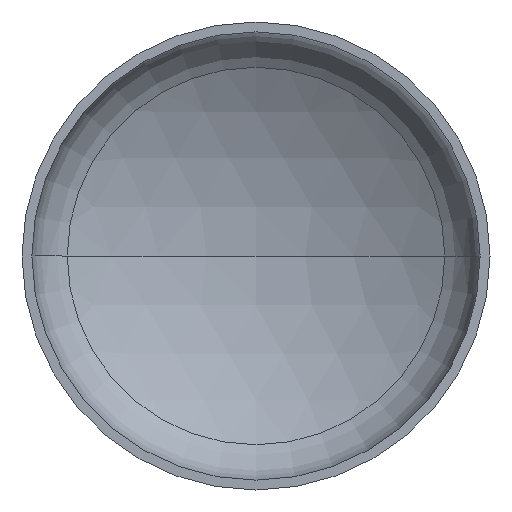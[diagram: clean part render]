
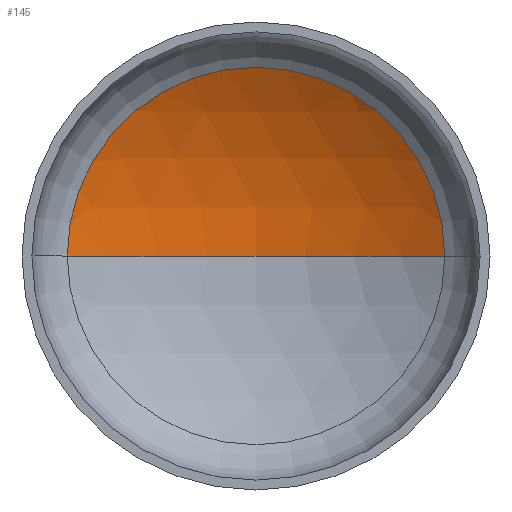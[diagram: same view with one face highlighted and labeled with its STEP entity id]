
A CAD part, front view. The second image highlights one B-rep face of the part: STEP entity #145.
In plain terms, the highlighted spherical face has radius 1520 mm.
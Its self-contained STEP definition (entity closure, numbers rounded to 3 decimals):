
#5 = SPHERICAL_SURFACE ( 'NONE', #26, 1520. ) ;
#9 = CIRCLE ( 'NONE', #32, 1520. ) ;
#26 = AXIS2_PLACEMENT_3D ( 'NONE', #290, #217, #50 ) ;
#31 = AXIS2_PLACEMENT_3D ( 'NONE', #178, #237, #236 ) ;
#32 = AXIS2_PLACEMENT_3D ( 'NONE', #287, #294, #293 ) ;
#34 = AXIS2_PLACEMENT_3D ( 'NONE', #304, #301, #300 ) ;
#41 = CIRCLE ( 'NONE', #34, 766.179 ) ;
#42 = VERTEX_POINT ( 'NONE', #256 ) ;
#50 = DIRECTION ( 'NONE',  ( -1., 0., 0. ) ) ;
#68 = ORIENTED_EDGE ( 'NONE', *, *, #102, .T. ) ;
#69 = CARTESIAN_POINT ( 'NONE',  ( 766.179, 370.463, 0. ) ) ;
#90 = EDGE_LOOP ( 'NONE', ( #134, #121, #68 ) ) ;
#102 = EDGE_CURVE ( 'NONE', #321, #136, #41, .T. ) ;
#103 = EDGE_CURVE ( 'NONE', #42, #321, #9, .T. ) ;
#107 = EDGE_CURVE ( 'NONE', #42, #136, #363, .T. ) ;
#121 = ORIENTED_EDGE ( 'NONE', *, *, #103, .T. ) ;
#134 = ORIENTED_EDGE ( 'NONE', *, *, #107, .F. ) ;
#136 = VERTEX_POINT ( 'NONE', #270 ) ;
#145 = ADVANCED_FACE ( 'NONE', ( #214 ), #5, .F. ) ;
#178 = CARTESIAN_POINT ( 'NONE',  ( 0., -942.309, 0. ) ) ;
#214 = FACE_OUTER_BOUND ( 'NONE', #90, .T. ) ;
#217 = DIRECTION ( 'NONE',  ( 0., 0., -1. ) ) ;
#236 = DIRECTION ( 'NONE',  ( 1., 0., 0. ) ) ;
#237 = DIRECTION ( 'NONE',  ( 0., 0., 1. ) ) ;
#256 = CARTESIAN_POINT ( 'NONE',  ( 0., 577.691, 0. ) ) ;
#270 = CARTESIAN_POINT ( 'NONE',  ( -766.179, 370.463, 0. ) ) ;
#287 = CARTESIAN_POINT ( 'NONE',  ( 0., -942.309, 0. ) ) ;
#290 = CARTESIAN_POINT ( 'NONE',  ( 0., -942.309, 0. ) ) ;
#293 = DIRECTION ( 'NONE',  ( -1., 0., 0. ) ) ;
#294 = DIRECTION ( 'NONE',  ( 0., 0., -1. ) ) ;
#300 = DIRECTION ( 'NONE',  ( 1., 0., 0. ) ) ;
#301 = DIRECTION ( 'NONE',  ( 0., -1., 0. ) ) ;
#304 = CARTESIAN_POINT ( 'NONE',  ( 0., 370.463, 0. ) ) ;
#321 = VERTEX_POINT ( 'NONE', #69 ) ;
#363 = CIRCLE ( 'NONE', #31, 1520. ) ;
